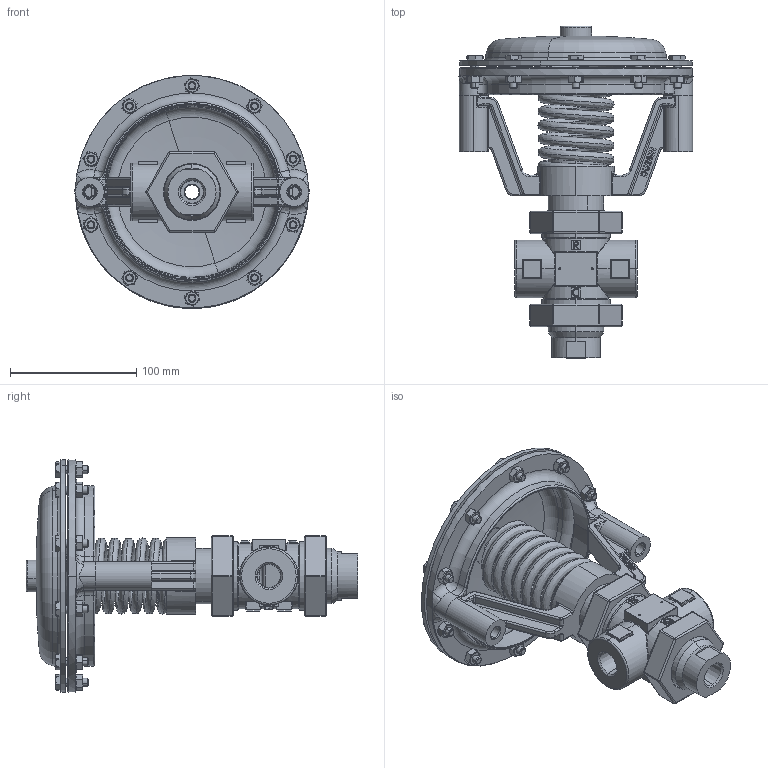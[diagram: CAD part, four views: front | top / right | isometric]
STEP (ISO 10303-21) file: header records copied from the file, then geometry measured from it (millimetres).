
FILE_DESCRIPTION (( 'STEP AP203' ), '1' );
FILE_NAME ('.50-.75 3W NPT D500-STEP.STEP', '2018-11-07T18:29:08', ( '' ), ( '' ), 'SwSTEP 2.0', 'SolidWorks 2012', '' );
FILE_SCHEMA (( 'CONFIG_CONTROL_DESIGN' ));
Products named in the file (14): .50-.75 3W NPT D500-STEP; H096-10; H060-03; D293-028-5DR; C293-023DR; D771; C293-023DM; C893-015D-SS; D283-025D-SS; C663-022D-SS; C383-080D; C963-032D; C113-056D; VP400-SS
Assembly tree (32 placements, depth 3):
  .50-.75 3W NPT D500-STEP
    VP400-SS
    C113-056D
    C963-032D
    C383-080D
    C663-022D-SS  x2
    D283-025D-SS
    C893-015D-SS
    C293-023DR
      C293-023DM
      D771
    D293-028-5DR
    H060-03  x10
    H096-10  x10
Bounding box: 185.42 x 262.9 x 184.53 mm (x, y, z)
Volume: 674989.9 mm3; surface area: 278407.6 mm2
Topology: 31 solids, 31 shells, 3082 faces, 7203 edges, 4184 vertices
Faces by surface type: plane 919, cylinder 631, bspline 584, cone 387, sphere 298, torus 263
Entity records: 88450 total; most frequent: CARTESIAN_POINT 40635, ORIENTED_EDGE 10126, DIRECTION 8599, EDGE_CURVE 5063, AXIS2_PLACEMENT_3D 3212, VERTEX_POINT 3140, EDGE_LOOP 2243, LINE 2175
